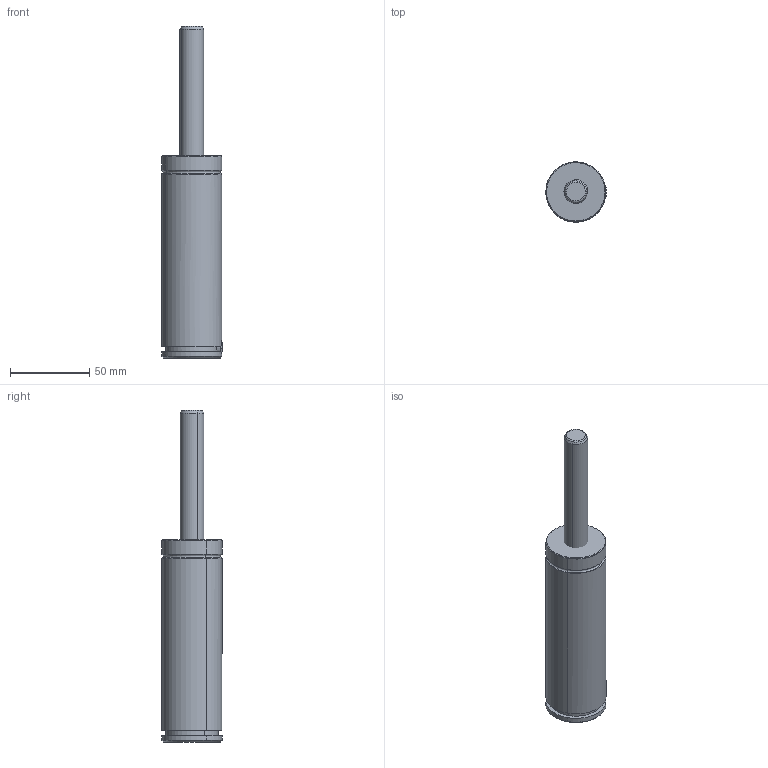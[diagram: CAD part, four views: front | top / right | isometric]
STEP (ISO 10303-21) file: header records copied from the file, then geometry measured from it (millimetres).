
FILE_DESCRIPTION(('CATIA V5 STEP Exchange'),'2;1');
FILE_NAME('W:\CATALOGO GENERAL 2018\FICHEROS CAD\004-TPS\TPS 250.1\TPS 250x80.1.stp','2017-10-31T14:13:19+00:00',('none'),('none'),'CATIA Version 5 Release 17 (IN-10)','CATIA V5 STEP AP203','none');
FILE_SCHEMA(('CONFIG_CONTROL_DESIGN'));
Length unit declared in the file: millimetre
Products named in the file (1): TPS 250x80.1
Assembly tree (3 placements, depth 2):
  TPS 250x80.1
    #56
    #1575
    #2137
Bounding box: 38.22 x 37.99 x 210 mm (x, y, z)
Volume: 160841.9 mm3; surface area: 25430.5 mm2
Topology: 3 solids, 3 shells, 150 faces, 333 edges, 188 vertices
Faces by surface type: cone 46, torus 40, cylinder 37, plane 19, bspline 8
Entity records: 3976 total; most frequent: CARTESIAN_POINT 988, ORIENTED_EDGE 646, DIRECTION 470, EDGE_CURVE 323, AXIS2_PLACEMENT_3D 277, VERTEX_POINT 188, CIRCLE 182, EDGE_LOOP 159
